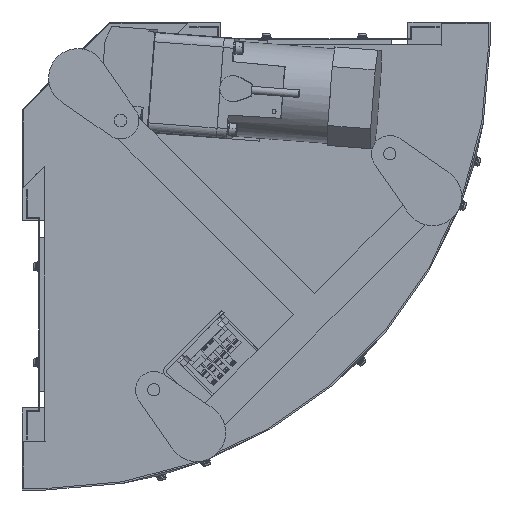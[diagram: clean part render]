
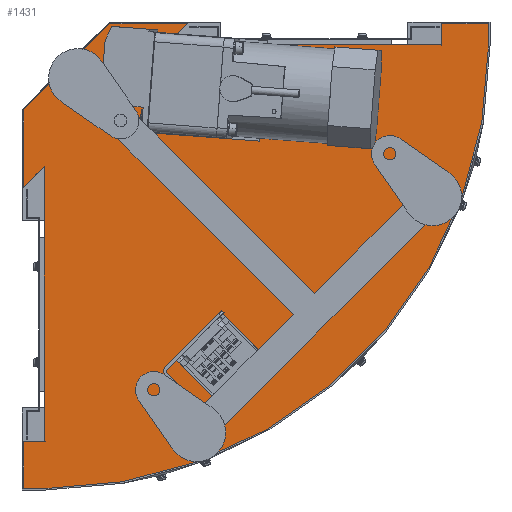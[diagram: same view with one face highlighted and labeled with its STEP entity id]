
A CAD part, front view. The second image highlights one B-rep face of the part: STEP entity #1431.
In plain terms, the highlighted planar face has unit normal (0, -1, 0).
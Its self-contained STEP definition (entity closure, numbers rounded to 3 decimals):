
#1431=ADVANCED_FACE('',(#3041),#3040,.F.);
#3040=PLANE('',#18454);
#3041=FACE_OUTER_BOUND('',#18455,.T.);
#18451=CARTESIAN_POINT('',(-313.4,-143.5,-471.5));
#18452=DIRECTION('',(0.,1.,0.));
#18453=DIRECTION('',(0.,0.,1.));
#18454=AXIS2_PLACEMENT_3D('',#18451,#18452,#18453);
#18455=EDGE_LOOP('',(#28860,#28861,#28862,#28863,#28864,#28865,#28866,#28867,#28868,#28869,#28870,#28871,#28872,#28873,#28874,#28875));
#28860=ORIENTED_EDGE('',*,*,#36756,.F.);
#28861=ORIENTED_EDGE('',*,*,#36757,.F.);
#28862=ORIENTED_EDGE('',*,*,#36758,.T.);
#28863=ORIENTED_EDGE('',*,*,#36759,.T.);
#28864=ORIENTED_EDGE('',*,*,#36760,.T.);
#28865=ORIENTED_EDGE('',*,*,#36761,.T.);
#28866=ORIENTED_EDGE('',*,*,#36762,.T.);
#28867=ORIENTED_EDGE('',*,*,#36763,.F.);
#28868=ORIENTED_EDGE('',*,*,#36764,.F.);
#28869=ORIENTED_EDGE('',*,*,#36765,.T.);
#28870=ORIENTED_EDGE('',*,*,#36766,.T.);
#28871=ORIENTED_EDGE('',*,*,#36767,.T.);
#28872=ORIENTED_EDGE('',*,*,#36768,.T.);
#28873=ORIENTED_EDGE('',*,*,#36769,.T.);
#28874=ORIENTED_EDGE('',*,*,#36770,.T.);
#28875=ORIENTED_EDGE('',*,*,#36771,.T.);
#36756=EDGE_CURVE('',#40898,#40899,#40900,.T.);
#36757=EDGE_CURVE('',#40906,#40898,#40907,.T.);
#36758=EDGE_CURVE('',#40906,#40913,#40914,.T.);
#36759=EDGE_CURVE('',#40913,#40920,#40921,.T.);
#36760=EDGE_CURVE('',#40920,#40927,#40928,.T.);
#36761=EDGE_CURVE('',#40927,#40934,#40935,.T.);
#36762=EDGE_CURVE('',#40934,#40941,#40942,.T.);
#36763=EDGE_CURVE('',#40948,#40941,#40949,.T.);
#36764=EDGE_CURVE('',#40955,#40948,#40956,.T.);
#36765=EDGE_CURVE('',#40955,#40962,#40963,.T.);
#36766=EDGE_CURVE('',#40962,#40969,#40970,.T.);
#36767=EDGE_CURVE('',#40969,#40976,#40977,.T.);
#36768=EDGE_CURVE('',#40976,#40983,#40984,.T.);
#36769=EDGE_CURVE('',#40983,#40990,#40991,.T.);
#36770=EDGE_CURVE('',#40990,#40997,#40998,.T.);
#36771=EDGE_CURVE('',#40997,#40899,#41004,.T.);
#40898=VERTEX_POINT('',#67572);
#40899=VERTEX_POINT('',#67573);
#40900=CIRCLE('',#67577,412.5);
#40906=VERTEX_POINT('',#67578);
#40907=LINE('',#67579,#67580);
#40913=VERTEX_POINT('',#67582);
#40914=LINE('',#67583,#67584);
#40920=VERTEX_POINT('',#67586);
#40921=LINE('',#67587,#67588);
#40927=VERTEX_POINT('',#67590);
#40928=LINE('',#67591,#67592);
#40934=VERTEX_POINT('',#67594);
#40935=LINE('',#67595,#67596);
#40941=VERTEX_POINT('',#67598);
#40942=LINE('',#67599,#67600);
#40948=VERTEX_POINT('',#67602);
#40949=LINE('',#67603,#67604);
#40955=VERTEX_POINT('',#67606);
#40956=CIRCLE('',#67610,412.5);
#40962=VERTEX_POINT('',#67611);
#40963=LINE('',#67612,#67613);
#40969=VERTEX_POINT('',#67615);
#40970=LINE('',#67616,#67617);
#40976=VERTEX_POINT('',#67619);
#40977=LINE('',#67620,#67621);
#40983=VERTEX_POINT('',#67623);
#40984=CIRCLE('',#67627,461.5);
#40990=VERTEX_POINT('',#67628);
#40991=LINE('',#67629,#67630);
#40997=VERTEX_POINT('',#67632);
#40998=LINE('',#67633,#67634);
#41004=LINE('',#67636,#67637);
#67572=CARTESIAN_POINT('',(132.496,-143.5,1.846));
#67573=CARTESIAN_POINT('',(132.5,-143.5,0.));
#67574=CARTESIAN_POINT('',(-280.,-143.5,0.));
#67575=DIRECTION('',(0.,1.,0.));
#67576=DIRECTION('',(0.,0.,-1.));
#67577=AXIS2_PLACEMENT_3D('',#67574,#67575,#67576);
#67578=CARTESIAN_POINT('',(-154.102,-143.5,1.798));
#67579=CARTESIAN_POINT('',(-154.102,-143.5,1.798));
#67580=VECTOR('',#67581,286.598);
#67581=DIRECTION('',(1.,0.,0.));
#67582=CARTESIAN_POINT('',(-132.5,-143.5,23.4));
#67583=CARTESIAN_POINT('',(-154.102,-143.5,1.798));
#67584=VECTOR('',#67585,30.55);
#67585=DIRECTION('',(0.707,0.,0.707));
#67586=CARTESIAN_POINT('',(-213.337,-143.5,23.4));
#67587=CARTESIAN_POINT('',(-132.5,-143.5,23.4));
#67588=VECTOR('',#67589,80.837);
#67589=DIRECTION('',(-1.,0.,0.));
#67590=CARTESIAN_POINT('',(-303.4,-143.5,-66.663));
#67591=CARTESIAN_POINT('',(-213.337,-143.5,23.4));
#67592=VECTOR('',#67593,127.368);
#67593=DIRECTION('',(-0.707,0.,-0.707));
#67594=CARTESIAN_POINT('',(-303.4,-143.5,-147.5));
#67595=CARTESIAN_POINT('',(-303.4,-143.5,-66.663));
#67596=VECTOR('',#67597,80.837);
#67597=DIRECTION('',(0.,0.,-1.));
#67598=CARTESIAN_POINT('',(-281.798,-143.5,-125.898));
#67599=CARTESIAN_POINT('',(-303.4,-143.5,-147.5));
#67600=VECTOR('',#67601,30.55);
#67601=DIRECTION('',(0.707,0.,0.707));
#67602=CARTESIAN_POINT('',(-281.846,-143.5,-412.496));
#67603=CARTESIAN_POINT('',(-281.846,-143.5,-412.496));
#67604=VECTOR('',#67605,286.598);
#67605=DIRECTION('',(0.,0.,1.));
#67606=CARTESIAN_POINT('',(-280.,-143.5,-412.5));
#67607=CARTESIAN_POINT('',(-280.,-143.5,0.));
#67608=DIRECTION('',(0.,1.,0.));
#67609=DIRECTION('',(0.,0.,-1.));
#67610=AXIS2_PLACEMENT_3D('',#67607,#67608,#67609);
#67611=CARTESIAN_POINT('',(-303.4,-143.5,-412.5));
#67612=CARTESIAN_POINT('',(-280.,-143.5,-412.5));
#67613=VECTOR('',#67614,23.4);
#67614=DIRECTION('',(-1.,0.,0.));
#67615=CARTESIAN_POINT('',(-303.4,-143.5,-461.5));
#67616=CARTESIAN_POINT('',(-303.4,-143.5,-412.5));
#67617=VECTOR('',#67618,49.);
#67618=DIRECTION('',(0.,0.,-1.));
#67619=CARTESIAN_POINT('',(-280.,-143.5,-461.5));
#67620=CARTESIAN_POINT('',(-303.4,-143.5,-461.5));
#67621=VECTOR('',#67622,23.4);
#67622=DIRECTION('',(1.,0.,0.));
#67623=CARTESIAN_POINT('',(181.5,-143.5,0.));
#67624=CARTESIAN_POINT('',(-280.,-143.5,0.));
#67625=DIRECTION('',(0.,-1.,0.));
#67626=DIRECTION('',(0.,0.,-1.));
#67627=AXIS2_PLACEMENT_3D('',#67624,#67625,#67626);
#67628=CARTESIAN_POINT('',(181.5,-143.5,23.4));
#67629=CARTESIAN_POINT('',(181.5,-143.5,0.));
#67630=VECTOR('',#67631,23.4);
#67631=DIRECTION('',(0.,0.,1.));
#67632=CARTESIAN_POINT('',(132.5,-143.5,23.4));
#67633=CARTESIAN_POINT('',(181.5,-143.5,23.4));
#67634=VECTOR('',#67635,49.);
#67635=DIRECTION('',(-1.,0.,0.));
#67636=CARTESIAN_POINT('',(132.5,-143.5,23.4));
#67637=VECTOR('',#67638,23.4);
#67638=DIRECTION('',(0.,0.,-1.));
